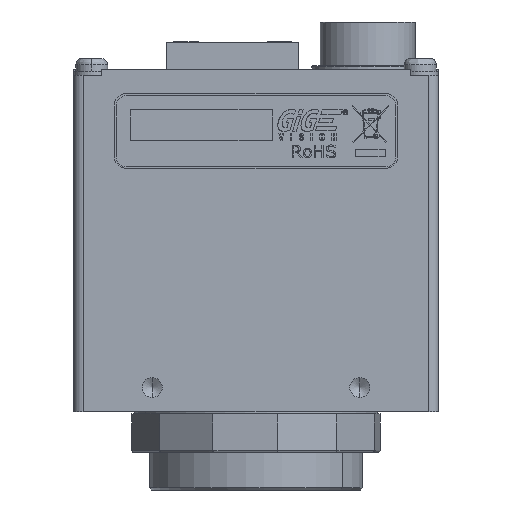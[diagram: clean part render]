
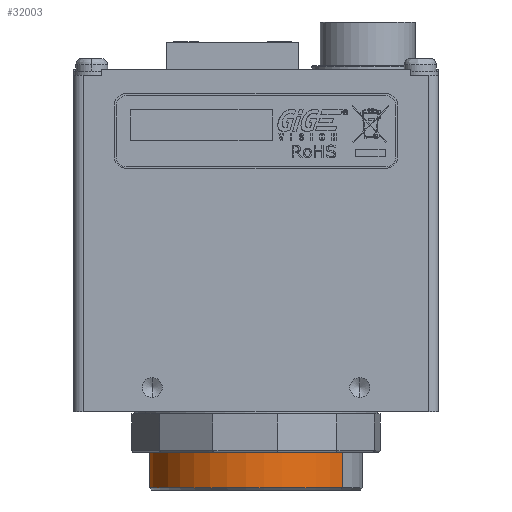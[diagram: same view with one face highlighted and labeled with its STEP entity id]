
A CAD part, front view. The second image highlights one B-rep face of the part: STEP entity #32003.
In plain terms, the highlighted cylindrical face has radius 13.335 mm (diameter 26.67 mm), a partial arc.
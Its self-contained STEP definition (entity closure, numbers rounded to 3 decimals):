
#4600 = DIRECTION ( 'NONE',  ( 1., 0., 0. ) ) ;
#6010 = DIRECTION ( 'NONE',  ( 0., 0., 1. ) ) ;
#7750 = EDGE_CURVE ( 'NONE', #121721, #111929, #166542, .T. ) ;
#8926 = CARTESIAN_POINT ( 'NONE',  ( 0., 0., 7.214 ) ) ;
#13638 = ORIENTED_EDGE ( 'NONE', *, *, #147515, .T. ) ;
#23584 = CARTESIAN_POINT ( 'NONE',  ( -13.335, 0., 13.386 ) ) ;
#24469 = CARTESIAN_POINT ( 'NONE',  ( 13.335, 0., 7.214 ) ) ;
#31184 = CYLINDRICAL_SURFACE ( 'NONE', #155217, 13.335 ) ;
#32003 = ADVANCED_FACE ( 'NONE', ( #80170 ), #31184, .T. ) ;
#41846 = DIRECTION ( 'NONE',  ( 0., 0., 1. ) ) ;
#46364 = CARTESIAN_POINT ( 'NONE',  ( -13.335, 0., 7.214 ) ) ;
#52127 = CARTESIAN_POINT ( 'NONE',  ( 0., 0., 13.386 ) ) ;
#57048 = DIRECTION ( 'NONE',  ( 0., 0., 1. ) ) ;
#58508 = CARTESIAN_POINT ( 'NONE',  ( 13.335, 0., 7.214 ) ) ;
#60920 = VECTOR ( 'NONE', #57048, 1000. ) ;
#65775 = DIRECTION ( 'NONE',  ( 1., 0., 0. ) ) ;
#66725 = ORIENTED_EDGE ( 'NONE', *, *, #90634, .T. ) ;
#67047 = EDGE_LOOP ( 'NONE', ( #141255, #13638, #168052, #66725 ) ) ;
#80170 = FACE_OUTER_BOUND ( 'NONE', #67047, .T. ) ;
#83928 = LINE ( 'NONE', #46364, #154373 ) ;
#90634 = EDGE_CURVE ( 'NONE', #111929, #147069, #162300, .T. ) ;
#99507 = EDGE_CURVE ( 'NONE', #148802, #147069, #83928, .T. ) ;
#111929 = VERTEX_POINT ( 'NONE', #123800 ) ;
#121721 = VERTEX_POINT ( 'NONE', #24469 ) ;
#122605 = CARTESIAN_POINT ( 'NONE',  ( 0., 0., 7.214 ) ) ;
#123800 = CARTESIAN_POINT ( 'NONE',  ( 13.335, 0., 13.386 ) ) ;
#135948 = DIRECTION ( 'NONE',  ( 1., 0., 0. ) ) ;
#140282 = DIRECTION ( 'NONE',  ( 0., 0., 1. ) ) ;
#141255 = ORIENTED_EDGE ( 'NONE', *, *, #99507, .F. ) ;
#142431 = AXIS2_PLACEMENT_3D ( 'NONE', #122605, #41846, #135948 ) ;
#145772 = DIRECTION ( 'NONE',  ( 0., 0., -1. ) ) ;
#147069 = VERTEX_POINT ( 'NONE', #23584 ) ;
#147515 = EDGE_CURVE ( 'NONE', #148802, #121721, #149422, .T. ) ;
#148802 = VERTEX_POINT ( 'NONE', #156981 ) ;
#149422 = CIRCLE ( 'NONE', #142431, 13.335 ) ;
#154373 = VECTOR ( 'NONE', #140282, 1000. ) ;
#155217 = AXIS2_PLACEMENT_3D ( 'NONE', #8926, #6010, #4600 ) ;
#156981 = CARTESIAN_POINT ( 'NONE',  ( -13.335, 0., 7.214 ) ) ;
#162300 = CIRCLE ( 'NONE', #167035, 13.335 ) ;
#166542 = LINE ( 'NONE', #58508, #60920 ) ;
#167035 = AXIS2_PLACEMENT_3D ( 'NONE', #52127, #145772, #65775 ) ;
#168052 = ORIENTED_EDGE ( 'NONE', *, *, #7750, .T. ) ;
